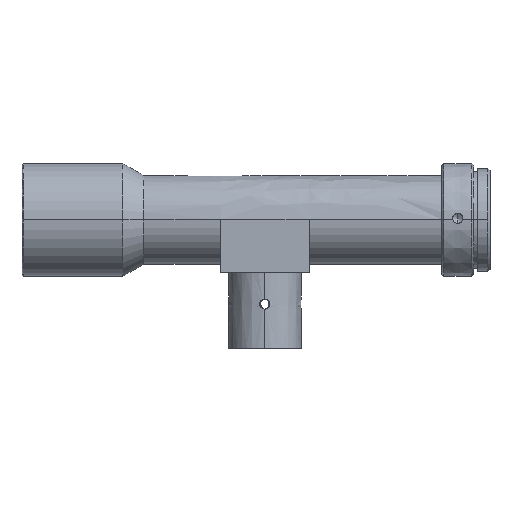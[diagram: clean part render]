
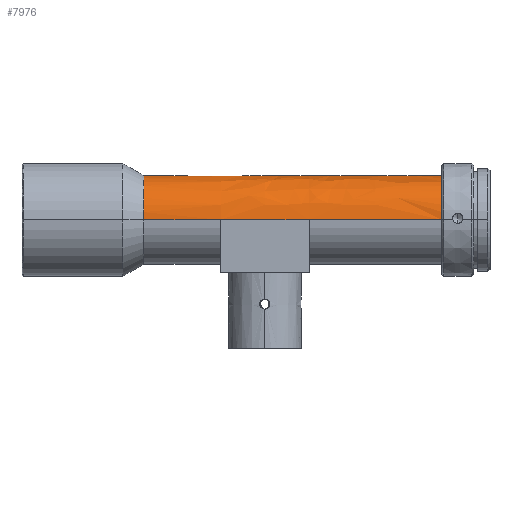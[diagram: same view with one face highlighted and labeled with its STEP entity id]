
A CAD part, top view. The second image highlights one B-rep face of the part: STEP entity #7976.
In plain terms, the highlighted face is a revolution surface.
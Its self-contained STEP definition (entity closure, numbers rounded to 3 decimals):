
#7976 = ADVANCED_FACE('',(#7977),#7991,.T.);
#7977 = FACE_BOUND('',#7978,.T.);
#7978 = EDGE_LOOP('',(#7979,#8004,#8019,#8034,#8050,#8065,#8080,#8095));
#7979 = ORIENTED_EDGE('',*,*,#7980,.F.);
#7980 = EDGE_CURVE('',#7981,#7983,#7985,.T.);
#7981 = VERTEX_POINT('',#7982);
#7982 = CARTESIAN_POINT('',(-44.9,0.,11.));
#7983 = VERTEX_POINT('',#7984);
#7984 = CARTESIAN_POINT('',(-12.,0.,11.));
#7985 = SURFACE_CURVE('',#7986,(#7990),.PCURVE_S1.);
#7986 = LINE('',#7987,#7988);
#7987 = CARTESIAN_POINT('',(-44.9,0.,11.));
#7988 = VECTOR('',#7989,1.);
#7989 = DIRECTION('',(1.,0.,0.));
#7990 = PCURVE('',#7991,#7999);
#7991 = SURFACE_OF_REVOLUTION('',#7992,#7996);
#7992 = LINE('',#7993,#7994);
#7993 = CARTESIAN_POINT('',(-12.,0.,11.));
#7994 = VECTOR('',#7995,1.);
#7995 = DIRECTION('',(-1.,0.,0.));
#7996 = AXIS1_PLACEMENT('',#7997,#7998);
#7997 = CARTESIAN_POINT('',(-127.869,0.,0.));
#7998 = DIRECTION('',(1.,0.,0.));
#7999 = DEFINITIONAL_REPRESENTATION('',(#8000),#8003);
#8000 = B_SPLINE_CURVE_WITH_KNOTS('',1,(#8001,#8002),.UNSPECIFIED.,.F.,
  .F.,(2,2),(0.,32.9),.PIECEWISE_BEZIER_KNOTS.);
#8001 = CARTESIAN_POINT('',(6.283,32.9));
#8002 = CARTESIAN_POINT('',(6.283,0.));
#8003 = ( GEOMETRIC_REPRESENTATION_CONTEXT(2) 
PARAMETRIC_REPRESENTATION_CONTEXT() REPRESENTATION_CONTEXT('2D SPACE',''
  ) );
#8004 = ORIENTED_EDGE('',*,*,#8005,.F.);
#8005 = EDGE_CURVE('',#8006,#7981,#8008,.T.);
#8006 = VERTEX_POINT('',#8007);
#8007 = CARTESIAN_POINT('',(-66.9,0.,11.));
#8008 = SURFACE_CURVE('',#8009,(#8013),.PCURVE_S1.);
#8009 = LINE('',#8010,#8011);
#8010 = CARTESIAN_POINT('',(-66.9,0.,11.));
#8011 = VECTOR('',#8012,1.);
#8012 = DIRECTION('',(1.,0.,0.));
#8013 = PCURVE('',#7991,#8014);
#8014 = DEFINITIONAL_REPRESENTATION('',(#8015),#8018);
#8015 = B_SPLINE_CURVE_WITH_KNOTS('',1,(#8016,#8017),.UNSPECIFIED.,.F.,
  .F.,(2,2),(0.,22.),.PIECEWISE_BEZIER_KNOTS.);
#8016 = CARTESIAN_POINT('',(6.283,54.9));
#8017 = CARTESIAN_POINT('',(6.283,32.9));
#8018 = ( GEOMETRIC_REPRESENTATION_CONTEXT(2) 
PARAMETRIC_REPRESENTATION_CONTEXT() REPRESENTATION_CONTEXT('2D SPACE',''
  ) );
#8019 = ORIENTED_EDGE('',*,*,#8020,.F.);
#8020 = EDGE_CURVE('',#8021,#8006,#8023,.T.);
#8021 = VERTEX_POINT('',#8022);
#8022 = CARTESIAN_POINT('',(-86.,0.,11.));
#8023 = SURFACE_CURVE('',#8024,(#8028),.PCURVE_S1.);
#8024 = LINE('',#8025,#8026);
#8025 = CARTESIAN_POINT('',(-86.,0.,11.));
#8026 = VECTOR('',#8027,1.);
#8027 = DIRECTION('',(1.,0.,0.));
#8028 = PCURVE('',#7991,#8029);
#8029 = DEFINITIONAL_REPRESENTATION('',(#8030),#8033);
#8030 = B_SPLINE_CURVE_WITH_KNOTS('',1,(#8031,#8032),.UNSPECIFIED.,.F.,
  .F.,(2,2),(0.,19.1),.PIECEWISE_BEZIER_KNOTS.);
#8031 = CARTESIAN_POINT('',(6.283,74.));
#8032 = CARTESIAN_POINT('',(6.283,54.9));
#8033 = ( GEOMETRIC_REPRESENTATION_CONTEXT(2) 
PARAMETRIC_REPRESENTATION_CONTEXT() REPRESENTATION_CONTEXT('2D SPACE',''
  ) );
#8034 = ORIENTED_EDGE('',*,*,#8035,.F.);
#8035 = EDGE_CURVE('',#8036,#8021,#8038,.T.);
#8036 = VERTEX_POINT('',#8037);
#8037 = CARTESIAN_POINT('',(-86.,0.,-11.));
#8038 = SURFACE_CURVE('',#8039,(#8044),.PCURVE_S1.);
#8039 = CIRCLE('',#8040,11.);
#8040 = AXIS2_PLACEMENT_3D('',#8041,#8042,#8043);
#8041 = CARTESIAN_POINT('',(-86.,0.,0.));
#8042 = DIRECTION('',(1.,0.,0.));
#8043 = DIRECTION('',(0.,0.,-1.));
#8044 = PCURVE('',#7991,#8045);
#8045 = DEFINITIONAL_REPRESENTATION('',(#8046),#8049);
#8046 = B_SPLINE_CURVE_WITH_KNOTS('',1,(#8047,#8048),.UNSPECIFIED.,.F.,
  .F.,(2,2),(0.,3.142),.PIECEWISE_BEZIER_KNOTS.);
#8047 = CARTESIAN_POINT('',(3.142,74.));
#8048 = CARTESIAN_POINT('',(6.283,74.));
#8049 = ( GEOMETRIC_REPRESENTATION_CONTEXT(2) 
PARAMETRIC_REPRESENTATION_CONTEXT() REPRESENTATION_CONTEXT('2D SPACE',''
  ) );
#8050 = ORIENTED_EDGE('',*,*,#8051,.F.);
#8051 = EDGE_CURVE('',#8052,#8036,#8054,.T.);
#8052 = VERTEX_POINT('',#8053);
#8053 = CARTESIAN_POINT('',(-66.9,0.,-11.));
#8054 = SURFACE_CURVE('',#8055,(#8059),.PCURVE_S1.);
#8055 = LINE('',#8056,#8057);
#8056 = CARTESIAN_POINT('',(-66.9,0.,-11.));
#8057 = VECTOR('',#8058,1.);
#8058 = DIRECTION('',(-1.,0.,0.));
#8059 = PCURVE('',#7991,#8060);
#8060 = DEFINITIONAL_REPRESENTATION('',(#8061),#8064);
#8061 = B_SPLINE_CURVE_WITH_KNOTS('',1,(#8062,#8063),.UNSPECIFIED.,.F.,
  .F.,(2,2),(0.,19.1),.PIECEWISE_BEZIER_KNOTS.);
#8062 = CARTESIAN_POINT('',(3.142,54.9));
#8063 = CARTESIAN_POINT('',(3.142,74.));
#8064 = ( GEOMETRIC_REPRESENTATION_CONTEXT(2) 
PARAMETRIC_REPRESENTATION_CONTEXT() REPRESENTATION_CONTEXT('2D SPACE',''
  ) );
#8065 = ORIENTED_EDGE('',*,*,#8066,.F.);
#8066 = EDGE_CURVE('',#8067,#8052,#8069,.T.);
#8067 = VERTEX_POINT('',#8068);
#8068 = CARTESIAN_POINT('',(-44.9,0.,-11.));
#8069 = SURFACE_CURVE('',#8070,(#8074),.PCURVE_S1.);
#8070 = LINE('',#8071,#8072);
#8071 = CARTESIAN_POINT('',(-44.9,0.,-11.));
#8072 = VECTOR('',#8073,1.);
#8073 = DIRECTION('',(-1.,0.,0.));
#8074 = PCURVE('',#7991,#8075);
#8075 = DEFINITIONAL_REPRESENTATION('',(#8076),#8079);
#8076 = B_SPLINE_CURVE_WITH_KNOTS('',1,(#8077,#8078),.UNSPECIFIED.,.F.,
  .F.,(2,2),(0.,22.),.PIECEWISE_BEZIER_KNOTS.);
#8077 = CARTESIAN_POINT('',(3.142,32.9));
#8078 = CARTESIAN_POINT('',(3.142,54.9));
#8079 = ( GEOMETRIC_REPRESENTATION_CONTEXT(2) 
PARAMETRIC_REPRESENTATION_CONTEXT() REPRESENTATION_CONTEXT('2D SPACE',''
  ) );
#8080 = ORIENTED_EDGE('',*,*,#8081,.F.);
#8081 = EDGE_CURVE('',#8082,#8067,#8084,.T.);
#8082 = VERTEX_POINT('',#8083);
#8083 = CARTESIAN_POINT('',(-12.,0.,-11.));
#8084 = SURFACE_CURVE('',#8085,(#8089),.PCURVE_S1.);
#8085 = LINE('',#8086,#8087);
#8086 = CARTESIAN_POINT('',(-12.,0.,-11.));
#8087 = VECTOR('',#8088,1.);
#8088 = DIRECTION('',(-1.,0.,0.));
#8089 = PCURVE('',#7991,#8090);
#8090 = DEFINITIONAL_REPRESENTATION('',(#8091),#8094);
#8091 = B_SPLINE_CURVE_WITH_KNOTS('',1,(#8092,#8093),.UNSPECIFIED.,.F.,
  .F.,(2,2),(0.,32.9),.PIECEWISE_BEZIER_KNOTS.);
#8092 = CARTESIAN_POINT('',(3.142,0.));
#8093 = CARTESIAN_POINT('',(3.142,32.9));
#8094 = ( GEOMETRIC_REPRESENTATION_CONTEXT(2) 
PARAMETRIC_REPRESENTATION_CONTEXT() REPRESENTATION_CONTEXT('2D SPACE',''
  ) );
#8095 = ORIENTED_EDGE('',*,*,#8096,.F.);
#8096 = EDGE_CURVE('',#7983,#8082,#8097,.T.);
#8097 = SURFACE_CURVE('',#8098,(#8103),.PCURVE_S1.);
#8098 = CIRCLE('',#8099,11.);
#8099 = AXIS2_PLACEMENT_3D('',#8100,#8101,#8102);
#8100 = CARTESIAN_POINT('',(-12.,0.,0.));
#8101 = DIRECTION('',(-1.,0.,0.));
#8102 = DIRECTION('',(0.,0.,1.));
#8103 = PCURVE('',#7991,#8104);
#8104 = DEFINITIONAL_REPRESENTATION('',(#8105),#8108);
#8105 = B_SPLINE_CURVE_WITH_KNOTS('',1,(#8106,#8107),.UNSPECIFIED.,.F.,
  .F.,(2,2),(0.,3.142),.PIECEWISE_BEZIER_KNOTS.);
#8106 = CARTESIAN_POINT('',(6.283,0.));
#8107 = CARTESIAN_POINT('',(3.142,0.));
#8108 = ( GEOMETRIC_REPRESENTATION_CONTEXT(2) 
PARAMETRIC_REPRESENTATION_CONTEXT() REPRESENTATION_CONTEXT('2D SPACE',''
  ) );
